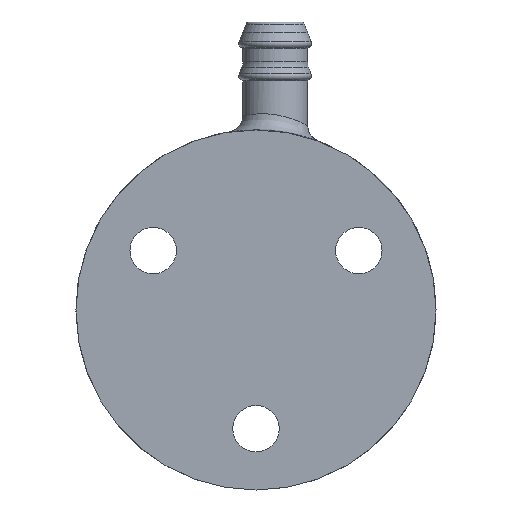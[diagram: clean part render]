
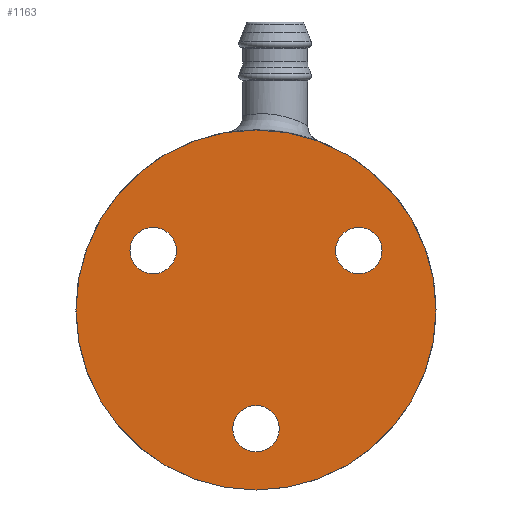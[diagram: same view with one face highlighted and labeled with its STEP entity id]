
A CAD part, front view. The second image highlights one B-rep face of the part: STEP entity #1163.
In plain terms, the highlighted planar face has unit normal (0, -1, 0).
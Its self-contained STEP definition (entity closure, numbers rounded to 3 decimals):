
#35 = CARTESIAN_POINT ( 'NONE',  ( -9.526, -5., 5.5 ) ) ;
#48 = CARTESIAN_POINT ( 'NONE',  ( 0., -5., -13.15 ) ) ;
#54 = EDGE_LOOP ( 'NONE', ( #2375, #2883 ) ) ;
#71 = CARTESIAN_POINT ( 'NONE',  ( 0., -5., -8.85 ) ) ;
#79 = CIRCLE ( 'NONE', #2260, 2.15 ) ;
#80 = AXIS2_PLACEMENT_3D ( 'NONE', #3413, #3597, #2150 ) ;
#150 = ORIENTED_EDGE ( 'NONE', *, *, #1894, .T. ) ;
#151 = AXIS2_PLACEMENT_3D ( 'NONE', #3707, #389, #989 ) ;
#225 = VERTEX_POINT ( 'NONE', #1939 ) ;
#296 = ORIENTED_EDGE ( 'NONE', *, *, #1890, .T. ) ;
#373 = AXIS2_PLACEMENT_3D ( 'NONE', #3473, #3147, #484 ) ;
#389 = DIRECTION ( 'NONE',  ( 0., 1., 0. ) ) ;
#484 = DIRECTION ( 'NONE',  ( 0., 0., -1. ) ) ;
#541 = FACE_BOUND ( 'NONE', #2689, .T. ) ;
#552 = AXIS2_PLACEMENT_3D ( 'NONE', #2551, #1965, #1670 ) ;
#554 = DIRECTION ( 'NONE',  ( 0., 1., 0. ) ) ;
#626 = AXIS2_PLACEMENT_3D ( 'NONE', #862, #3540, #2057 ) ;
#741 = CARTESIAN_POINT ( 'NONE',  ( 9.526, -5., 7.65 ) ) ;
#746 = CIRCLE ( 'NONE', #373, 16.675 ) ;
#780 = CARTESIAN_POINT ( 'NONE',  ( 0., -5., -11. ) ) ;
#789 = PLANE ( 'NONE',  #552 ) ;
#828 = FACE_BOUND ( 'NONE', #2825, .T. ) ;
#862 = CARTESIAN_POINT ( 'NONE',  ( 0., -5., 0. ) ) ;
#866 = DIRECTION ( 'NONE',  ( -0.866, 0., -0.5 ) ) ;
#989 = DIRECTION ( 'NONE',  ( -0.866, 0., -0.5 ) ) ;
#999 = CARTESIAN_POINT ( 'NONE',  ( -9.526, -5., 3.35 ) ) ;
#1087 = DIRECTION ( 'NONE',  ( 0., 0., 1. ) ) ;
#1116 = FACE_OUTER_BOUND ( 'NONE', #54, .T. ) ;
#1163 = ADVANCED_FACE ( 'NONE', ( #828, #541, #2877, #1116 ), #789, .T. ) ;
#1225 = VERTEX_POINT ( 'NONE', #3007 ) ;
#1253 = DIRECTION ( 'NONE',  ( 0., 1., 0. ) ) ;
#1312 = VERTEX_POINT ( 'NONE', #741 ) ;
#1327 = CIRCLE ( 'NONE', #151, 2.15 ) ;
#1397 = EDGE_CURVE ( 'NONE', #3275, #3281, #1416, .T. ) ;
#1416 = CIRCLE ( 'NONE', #626, 16.675 ) ;
#1422 = CARTESIAN_POINT ( 'NONE',  ( 0., -5., -16.675 ) ) ;
#1670 = DIRECTION ( 'NONE',  ( 0., 0., -1. ) ) ;
#1689 = CIRCLE ( 'NONE', #80, 2.15 ) ;
#1700 = EDGE_CURVE ( 'NONE', #2247, #1225, #3099, .T. ) ;
#1739 = ORIENTED_EDGE ( 'NONE', *, *, #2469, .T. ) ;
#1779 = DIRECTION ( 'NONE',  ( 0., 1., 0. ) ) ;
#1813 = CIRCLE ( 'NONE', #2808, 2.15 ) ;
#1818 = DIRECTION ( 'NONE',  ( 0.866, 0., -0.5 ) ) ;
#1890 = EDGE_CURVE ( 'NONE', #1225, #2247, #1813, .T. ) ;
#1894 = EDGE_CURVE ( 'NONE', #3003, #2815, #1689, .T. ) ;
#1939 = CARTESIAN_POINT ( 'NONE',  ( 9.526, -5., 3.35 ) ) ;
#1945 = CIRCLE ( 'NONE', #1949, 2.15 ) ;
#1949 = AXIS2_PLACEMENT_3D ( 'NONE', #2138, #1253, #866 ) ;
#1965 = DIRECTION ( 'NONE',  ( 0., -1., 0. ) ) ;
#2057 = DIRECTION ( 'NONE',  ( 0., 0., -1. ) ) ;
#2125 = EDGE_CURVE ( 'NONE', #225, #1312, #1945, .T. ) ;
#2129 = DIRECTION ( 'NONE',  ( 0., 1., 0. ) ) ;
#2138 = CARTESIAN_POINT ( 'NONE',  ( 9.526, -5., 5.5 ) ) ;
#2150 = DIRECTION ( 'NONE',  ( 0., 0., 1. ) ) ;
#2247 = VERTEX_POINT ( 'NONE', #999 ) ;
#2260 = AXIS2_PLACEMENT_3D ( 'NONE', #780, #554, #1087 ) ;
#2270 = DIRECTION ( 'NONE',  ( 0.866, 0., -0.5 ) ) ;
#2353 = CARTESIAN_POINT ( 'NONE',  ( 0., -5., 16.675 ) ) ;
#2366 = EDGE_LOOP ( 'NONE', ( #1739, #150 ) ) ;
#2375 = ORIENTED_EDGE ( 'NONE', *, *, #2978, .T. ) ;
#2469 = EDGE_CURVE ( 'NONE', #2815, #3003, #79, .T. ) ;
#2538 = ORIENTED_EDGE ( 'NONE', *, *, #1700, .T. ) ;
#2551 = CARTESIAN_POINT ( 'NONE',  ( 16.675, -5., 0. ) ) ;
#2557 = AXIS2_PLACEMENT_3D ( 'NONE', #35, #1779, #1818 ) ;
#2689 = EDGE_LOOP ( 'NONE', ( #3319, #2890 ) ) ;
#2808 = AXIS2_PLACEMENT_3D ( 'NONE', #3653, #2129, #2270 ) ;
#2815 = VERTEX_POINT ( 'NONE', #71 ) ;
#2825 = EDGE_LOOP ( 'NONE', ( #296, #2538 ) ) ;
#2877 = FACE_BOUND ( 'NONE', #2366, .T. ) ;
#2883 = ORIENTED_EDGE ( 'NONE', *, *, #1397, .T. ) ;
#2890 = ORIENTED_EDGE ( 'NONE', *, *, #2125, .T. ) ;
#2978 = EDGE_CURVE ( 'NONE', #3281, #3275, #746, .T. ) ;
#3003 = VERTEX_POINT ( 'NONE', #48 ) ;
#3007 = CARTESIAN_POINT ( 'NONE',  ( -9.526, -5., 7.65 ) ) ;
#3099 = CIRCLE ( 'NONE', #2557, 2.15 ) ;
#3147 = DIRECTION ( 'NONE',  ( 0., -1., 0. ) ) ;
#3275 = VERTEX_POINT ( 'NONE', #2353 ) ;
#3281 = VERTEX_POINT ( 'NONE', #1422 ) ;
#3319 = ORIENTED_EDGE ( 'NONE', *, *, #3569, .T. ) ;
#3413 = CARTESIAN_POINT ( 'NONE',  ( 0., -5., -11. ) ) ;
#3473 = CARTESIAN_POINT ( 'NONE',  ( 0., -5., 0. ) ) ;
#3540 = DIRECTION ( 'NONE',  ( 0., -1., 0. ) ) ;
#3569 = EDGE_CURVE ( 'NONE', #1312, #225, #1327, .T. ) ;
#3597 = DIRECTION ( 'NONE',  ( 0., 1., 0. ) ) ;
#3653 = CARTESIAN_POINT ( 'NONE',  ( -9.526, -5., 5.5 ) ) ;
#3707 = CARTESIAN_POINT ( 'NONE',  ( 9.526, -5., 5.5 ) ) ;
